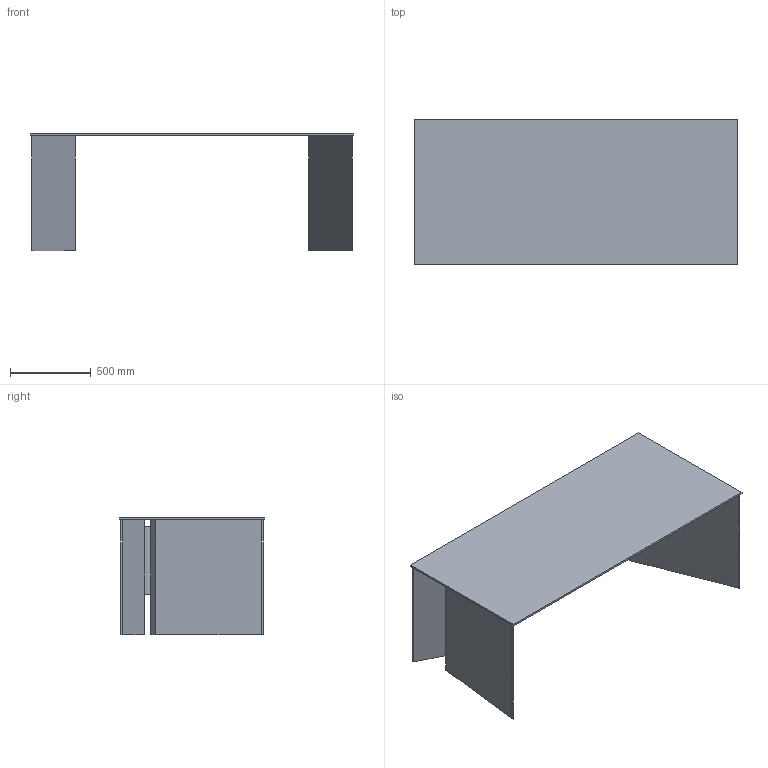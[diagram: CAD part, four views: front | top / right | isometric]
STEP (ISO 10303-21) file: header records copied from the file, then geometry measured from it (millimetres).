
FILE_DESCRIPTION(/* description */ (''),/* implementation_level */ '2;1');
FILE_NAME(/* name */ 'S1338 - Luminare Scrivania 200x90',/* time_stamp */ '2010-12-10T09:52:32+01:00',/* author */ (''),/* organization */ (''),/* preprocessor_version */ 'ST-DEVELOPER v10',/* originating_system */ '',/* authorisation */ '');
FILE_SCHEMA (('CONFIG_CONTROL_DESIGN'));
Length unit declared in the file: centimetre
Products named in the file (1): 1
Bounding box: 2000 x 900 x 726 mm (x, y, z)
Volume: 22281989.3 mm3; surface area: 7573130.6 mm2
Topology: 17 solids, 21 shells, 92 faces, 246 edges, 180 vertices
Faces by surface type: plane 54, bspline 38
Entity records: 3110 total; most frequent: CARTESIAN_POINT 1682, ORIENTED_EDGE 312, EDGE_CURVE 174, VERTEX_POINT 116, B_SPLINE_CURVE_WITH_KNOTS 114, ADVANCED_FACE 92, FACE_OUTER_BOUND 92, EDGE_LOOP 92
